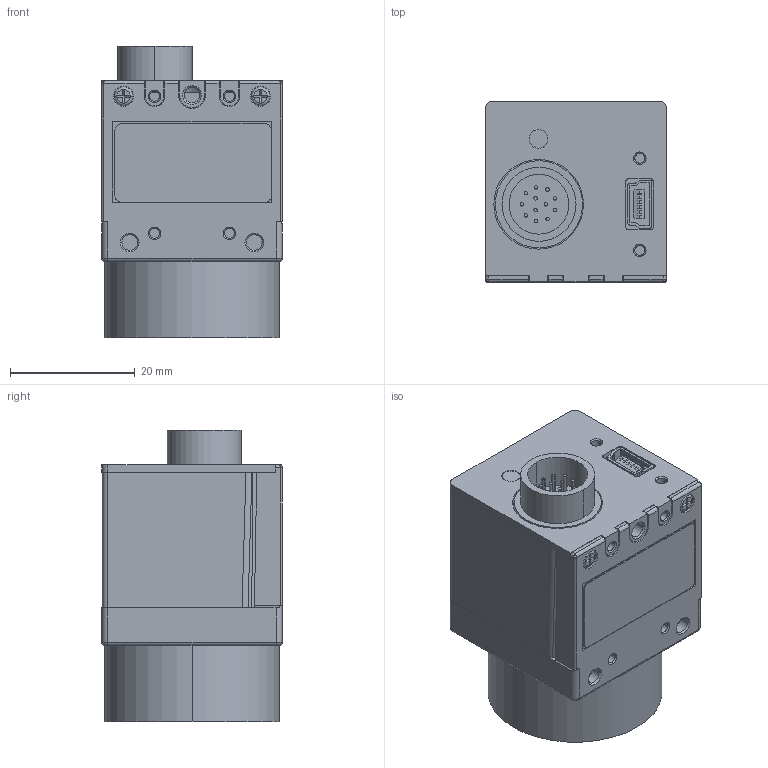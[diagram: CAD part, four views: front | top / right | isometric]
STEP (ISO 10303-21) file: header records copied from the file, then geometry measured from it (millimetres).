
FILE_DESCRIPTION((''),'2;1');
FILE_NAME('USB2_0-29X29X29_ASM','2021-04-23T',('Dongwoo'),(''),'CREO PARAMETRIC BY PTC INC, 2016130','CREO PARAMETRIC BY PTC INC, 2016130','');
FILE_SCHEMA(('CONFIG_CONTROL_DESIGN'));
Length unit declared in the file: inch
Products named in the file (21): MVU-00-01-00-00_101_1; MVU-00-03-00-00_20_1; CH_M2_L3_ZNB_5_1; MVU-00-04-00-00_9_1; MVU-CCD-PCB-ASSY_ASM_21_ASM_1_ASM; CH_M2_L5_ZNB_5_1; MVU-00-02-00-00_107_1; MVU-BACK-PCB-PART_11_1; SAMTEC_CLM_107_02_F_D_P_5_1; MVU-BACK-PCB-ASSY_ASM_11_ASM_1_ASM; HR10_10R_12PB_10_1; MINI_CAM_P5SBFEMALE_4_1_1; MINI_CAM_P5SBFEMALE_4_2_1; MINI_CAM_P5SBFEMALE_4_ASM_1_ASM; MVU-00-09-00-00_20_1; MVU-BACK-BODY-ASSY_ASM_25_ASM_1_ASM; MVU-00-08-00-00_22_1; MVU-00-10-00-00_11_1; MVU-00-00-00-00_ASM_73_ASM_1_ASM; MVU-00-00-00-00_ASM_ASM_1_ASM; USB2_0-29X29X29_ASM
Assembly tree (29 placements, depth 6):
  USB2_0-29X29X29_ASM
    MVU-00-00-00-00_ASM_ASM_1_ASM
      MVU-00-00-00-00_ASM_73_ASM_1_ASM
        MVU-00-01-00-00_101_1
        MVU-00-03-00-00_20_1
        CH_M2_L3_ZNB_5_1  x6
        MVU-00-04-00-00_9_1
        MVU-CCD-PCB-ASSY_ASM_21_ASM_1_ASM
        CH_M2_L5_ZNB_5_1  x2
        MVU-BACK-BODY-ASSY_ASM_25_ASM_1_ASM
          MVU-00-02-00-00_107_1
          MVU-BACK-PCB-ASSY_ASM_11_ASM_1_ASM
            MVU-BACK-PCB-PART_11_1
            SAMTEC_CLM_107_02_F_D_P_5_1
          CH_M2_L3_ZNB_5_1  x3
          HR10_10R_12PB_10_1
          MINI_CAM_P5SBFEMALE_4_ASM_1_ASM
            MINI_CAM_P5SBFEMALE_4_1_1
            MINI_CAM_P5SBFEMALE_4_2_1
          MVU-00-09-00-00_20_1
        MVU-00-08-00-00_22_1
        MVU-00-10-00-00_11_1
Bounding box: 29 x 29 x 46.74 mm (x, y, z)
Volume: 24836.6 mm3; surface area: 20060.1 mm2
Topology: 23 solids, 52 shells, 1373 faces, 3511 edges, 2312 vertices
Faces by surface type: plane 846, cylinder 386, cone 101, torus 22, bspline 18
Entity records: 39370 total; most frequent: CARTESIAN_POINT 10977, DIRECTION 5874, ORIENTED_EDGE 5682, EDGE_CURVE 2891, AXIS2_PLACEMENT_3D 1987, VERTEX_POINT 1916, VECTOR 1900, LINE 1900
